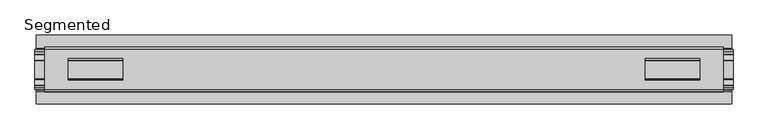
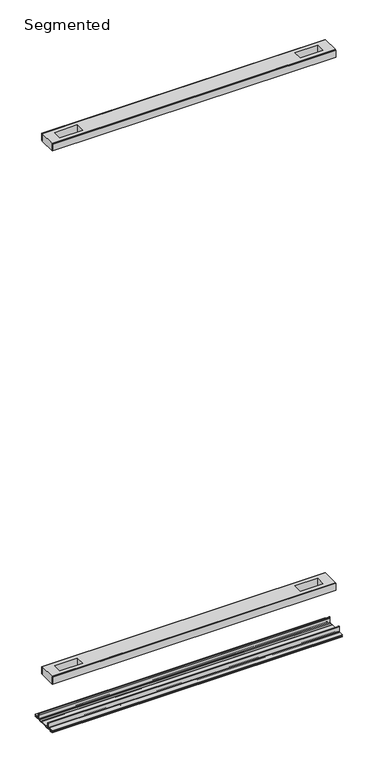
"""IFC4 building model written with IfcOpenShell, lengths in millimetres: proxy geometry, Frame-Teknion-FHCRA-Horizontal_Rail-R2022 : Segmented."""

from ifc_helpers import new_model, si_unit, point, frame, frame_2d, origin, place, context, project, spatial, polyline, circle_curve, trimmed, segment, composite_curve, outline, extrude, source, transform, mapped, element, save


def segmented_6adcb2d5(model_context):
    return source(origin(), model_context, "Body", "SweptSolid", [
        extrude(outline(polyline([(492.0615091, 29.0068005), (-492.0615091, 29.0068005), (-492.0615091, 32.1817997), (492.0615091, 32.1817997), (492.0615091, 29.0068005)])), frame((0.0, 0.0, 2107.0117561), z_axis=(0.0, 0.0, 1.0), x_axis=(1.0, 0.0, 0.0)), (0.0, 0.0, 1.0), 25.3999939),
        extrude(outline(polyline([(492.0615091, -32.1817997), (-492.0615091, -32.1817997), (-492.0615091, -29.0068005), (492.0615091, -29.0068005), (492.0615091, -32.1817997)])), frame((0.0, 0.0, 2107.0117561), z_axis=(0.0, 0.0, 1.0), x_axis=(1.0, 0.0, 0.0)), (0.0, 0.0, 1.0), 25.3999939),
        extrude(outline(polyline([(492.0615091, -29.0068005), (-492.0615091, -29.0068005), (-492.0615091, 29.0068005), (492.0615091, 29.0068005), (492.0615091, -29.0068005)]), holes=[polyline([(457.6444965, -15.1130038), (457.6444965, 15.875003), (378.5996847, 15.875003), (378.5996847, -15.1130038), (457.6444965, -15.1130038)]), polyline([(-457.6444965, -15.1130038), (-378.5996847, -15.1130038), (-378.5996847, 15.875003), (-457.6444965, 15.875003), (-457.6444965, -15.1130038)])]), frame((0.0, 0.0, 2105.5901786), z_axis=(0.0, 0.0, 1.0), x_axis=(1.0, 0.0, 0.0)), (0.0, 0.0, 1.0), 27.9999988),
        extrude(outline(polyline([(492.0615091, 29.0068005), (-492.0615091, 29.0068005), (-492.0615091, 32.1817997), (492.0615091, 32.1817997), (492.0615091, 29.0068005)])), frame((0.0, 0.0, 149.8401622), z_axis=(0.0, 0.0, 1.0), x_axis=(1.0, 0.0, 0.0)), (0.0, 0.0, 1.0), 25.3999939),
        extrude(outline(polyline([(492.0615091, -32.1817997), (-492.0615091, -32.1817997), (-492.0615091, -29.0068005), (492.0615091, -29.0068005), (492.0615091, -32.1817997)])), frame((0.0, 0.0, 149.8401622), z_axis=(0.0, 0.0, 1.0), x_axis=(1.0, 0.0, 0.0)), (0.0, 0.0, 1.0), 25.3999939),
        extrude(outline(polyline([(492.0615091, -29.0068005), (-492.0615091, -29.0068005), (-492.0615091, 29.0068005), (492.0615091, 29.0068005), (492.0615091, -29.0068005)]), holes=[polyline([(457.6444965, -15.1130038), (457.6444965, 15.875003), (378.5996847, 15.875003), (378.5996847, -15.1130038), (457.6444965, -15.1130038)]), polyline([(-457.6444965, -15.1130038), (-378.5996847, -15.1130038), (-378.5996847, 15.875003), (-457.6444965, 15.875003), (-457.6444965, -15.1130038)])]), frame((0.0, 0.0, 148.4185847), z_axis=(0.0, 0.0, 1.0), x_axis=(1.0, 0.0, 0.0)), (0.0, 0.0, 1.0), 27.9999988),
        extrude(outline(composite_curve([segment(trimmed(circle_curve(frame_2d((26.6420561, -7.7516037)), 2.17424), [point((28.8162961, -7.7516037))], [point((26.6420561, -9.9258438))], False, "CARTESIAN"), True, "CONTINUOUS"), segment(polyline([(26.6420561, -9.9258438), (22.3510694, -9.9258438)]), True, "CONTINUOUS"), segment(trimmed(circle_curve(frame_2d((17.7706549, -6.4800016)), 5.7318431), [point((22.3510694, -9.9258438))], [point((13.1902404, -9.9258438))], False, "CARTESIAN"), True, "CONTINUOUS"), segment(polyline([(13.1902404, -9.9258438), (-13.57124, -9.9258438)]), True, "CONTINUOUS"), segment(trimmed(circle_curve(frame_2d((-18.1516545, -6.4800016)), 5.7318431), [point((-13.57124, -9.9258438))], [point((-22.732069, -9.9258438))], False, "CARTESIAN"), True, "CONTINUOUS"), segment(polyline([(-22.732069, -9.9258438), (-27.0230557, -9.9258438)]), True, "CONTINUOUS"), segment(trimmed(circle_curve(frame_2d((-27.0230557, -7.7516037)), 2.17424), [point((-27.0230557, -9.9258438))], [point((-29.1972958, -7.7516037))], False, "CARTESIAN"), True, "CONTINUOUS"), segment(polyline([(-29.1972958, -7.7516037), (-29.1972958, 9.8607558)]), True, "CONTINUOUS"), segment(trimmed(circle_curve(frame_2d((-27.9780978, 9.8607558)), 1.2191979), [point((-29.1972958, 9.8607558))], [point((-26.7588999, 9.8607558))], False, "CARTESIAN"), True, "CONTINUOUS"), segment(polyline([(-26.7588999, 9.8607558), (-26.7588999, 5.9999563), (-28.0390765, 5.9999563), (-28.0390765, -7.7516037)]), True, "CONTINUOUS"), segment(trimmed(circle_curve(frame_2d((-27.0230557, -7.7516037)), 1.0160208), [point((-28.0390765, -7.7516037))], [point((-27.0295728, -8.7676036))], True, "CARTESIAN"), True, "CONTINUOUS"), segment(polyline([(-27.0295728, -8.7676036), (-23.0866222, -8.7676036), (-22.1732605, -8.968753)]), True, "CONTINUOUS"), segment(trimmed(circle_curve(frame_2d((-18.1483018, -6.1259382)), 4.9276657), [point((-22.1732605, -8.968753))], [point((-14.123343, -8.968753))], True, "CARTESIAN"), True, "CONTINUOUS"), segment(polyline([(-14.123343, -8.968753), (-13.2099722, -8.7676036), (12.8289726, -8.7676036), (13.7423434, -8.968753)]), True, "CONTINUOUS"), segment(trimmed(circle_curve(frame_2d((17.7673021, -6.1259382)), 4.9276657), [point((13.7423434, -8.968753))], [point((21.7922609, -8.968753))], True, "CARTESIAN"), True, "CONTINUOUS"), segment(polyline([(21.7922609, -8.968753), (22.7056226, -8.7676036), (26.6485732, -8.7676036)]), True, "CONTINUOUS"), segment(trimmed(circle_curve(frame_2d((26.6420561, -7.7516037)), 1.0160208), [point((26.6485732, -8.7676036))], [point((27.6580769, -7.7516037))], True, "CARTESIAN"), True, "CONTINUOUS"), segment(polyline([(27.6580769, -7.7516037), (27.6580769, 5.9999563), (26.3779003, 5.9999563), (26.3779003, 9.8607558)]), True, "CONTINUOUS"), segment(trimmed(circle_curve(frame_2d((27.5970982, 9.8607558)), 1.2191979), [point((26.3779003, 9.8607558))], [point((28.8162961, 9.8607558))], False, "CARTESIAN"), True, "CONTINUOUS"), segment(polyline([(28.8162961, 9.8607558), (28.8162961, -7.7516037)]), True, "CONTINUOUS")], self_intersect=False)), frame((-506.1204, 0.0, 0.0), z_axis=(1.0, 0.0, 0.0), x_axis=(0.0, 1.0, 0.0)), (0.0, 0.0, 1.0), 1012.2408),
        extrude(outline(composite_curve([segment(polyline([(50.2668422, -13.9898438), (39.6557522, -13.9898438)]), True, "CONTINUOUS"), segment(trimmed(circle_curve(frame_2d((39.6557522, -12.4658438)), 1.524), [point((39.6557522, -13.9898438))], [point((38.1317522, -12.4658438))], False, "CARTESIAN"), True, "CONTINUOUS"), segment(polyline([(38.1317522, -12.4658438), (38.1317522, -7.766844), (31.3054974, -7.766844), (31.3054974, -10.0528438)]), True, "CONTINUOUS"), segment(trimmed(circle_curve(frame_2d((29.7814974, -10.0528438)), 1.524), [point((31.3054974, -10.0528438))], [point((29.7814974, -11.5768438))], False, "CARTESIAN"), True, "CONTINUOUS"), segment(polyline([(29.7814974, -11.5768438), (23.2753553, -11.5768438)]), True, "CONTINUOUS"), segment(trimmed(circle_curve(frame_2d((17.7673021, -6.4968436)), 7.4930002), [point((23.2753553, -11.5768438))], [point((12.5094972, -11.8354331))], False, "CARTESIAN"), True, "CONTINUOUS"), segment(polyline([(12.5094972, -11.8354331), (-12.8904968, -11.8354331)]), True, "CONTINUOUS"), segment(trimmed(circle_curve(frame_2d((-18.1483018, -6.4968436)), 7.4930002), [point((-12.8904968, -11.8354331))], [point((-23.6563549, -11.5768438))], False, "CARTESIAN"), True, "CONTINUOUS"), segment(polyline([(-23.6563549, -11.5768438), (-30.1624971, -11.5768438)]), True, "CONTINUOUS"), segment(trimmed(circle_curve(frame_2d((-30.1624971, -10.0528438)), 1.524), [point((-30.1624971, -11.5768438))], [point((-31.686497, -10.0528438))], False, "CARTESIAN"), True, "CONTINUOUS"), segment(polyline([(-31.686497, -10.0528438), (-31.686497, -7.766844), (-38.5127519, -7.766844), (-38.5127519, -12.4658438)]), True, "CONTINUOUS"), segment(trimmed(circle_curve(frame_2d((-40.0367518, -12.4658438)), 1.524), [point((-38.5127519, -12.4658438))], [point((-40.0367518, -13.9898438))], False, "CARTESIAN"), True, "CONTINUOUS"), segment(polyline([(-40.0367518, -13.9898438), (-50.00625, -13.9898438), (-50.00625, -12.3388438), (-40.1637503, -12.3388438), (-40.1637503, -7.766844), (-50.00625, -7.766844), (-50.00625, -6.1158439), (-31.6239218, -6.1158439)]), True, "CONTINUOUS"), segment(trimmed(circle_curve(frame_2d((-31.6864982, -7.7656583)), 1.6510007), [point((-31.6239218, -6.1158439))], [point((-30.0354975, -7.7656583))], False, "CARTESIAN"), True, "CONTINUOUS"), segment(polyline([(-30.0354975, -7.7656583), (-30.0354975, -9.9258438), (-23.486834, -9.9258438)]), True, "CONTINUOUS"), segment(trimmed(circle_curve(frame_2d((-18.1483018, -5.2268471)), 7.1119966), [point((-23.486834, -9.9258438))], [point((-12.8097695, -9.9258438))], True, "CARTESIAN"), True, "CONTINUOUS"), segment(polyline([(-12.8097695, -9.9258438), (12.4287699, -9.9258438)]), True, "CONTINUOUS"), segment(trimmed(circle_curve(frame_2d((17.7673021, -5.2268471)), 7.1119966), [point((12.4287699, -9.9258438))], [point((23.1058344, -9.9258438))], True, "CARTESIAN"), True, "CONTINUOUS"), segment(polyline([(23.1058344, -9.9258438), (29.6544978, -9.9258438), (29.6544978, -7.6398436)]), True, "CONTINUOUS"), segment(trimmed(circle_curve(frame_2d((31.1784975, -7.6398436)), 1.5239997), [point((29.6544978, -7.6398436))], [point((31.1784975, -6.1158439))], False, "CARTESIAN"), True, "CONTINUOUS"), segment(polyline([(31.1784975, -6.1158439), (50.2668422, -6.1158439), (50.2240211, -7.766844), (39.7827507, -7.766844), (39.7827507, -12.3388438), (50.2240211, -12.3388438), (50.2668422, -13.9898438)]), True, "CONTINUOUS")], self_intersect=False)), frame((-504.4694, 0.0, 0.0), z_axis=(1.0, 0.0, 0.0), x_axis=(0.0, 1.0, 0.0)), (0.0, 0.0, 1.0), 1008.9388),
    ])


if __name__ == "__main__":
    model = new_model("IFC4")
    model_context = context("Model", 3, world=origin())
    ifc_project = project(units=[si_unit("LENGTHUNIT", "METRE", prefix="MILLI")], contexts=[model_context])
    site = spatial("IfcSite", under=ifc_project)
    building = spatial("IfcBuilding", under=site)
    placement = place(None, origin())
    segmented_shape = segmented_6adcb2d5(model_context)
    element("IfcBuildingElementProxy", 1, Name="Frame-Teknion-FHCRA-Horizontal_Rail-R2022 : Segmented", ObjectType="Frame-Teknion-FHCRA-Horizontal_Rail-R2022 : Segmented", at=placement, inside=building, context=model_context, shape_type="MappedRepresentation", body=[
        mapped(segmented_shape, transform((0.0, 0.0, 0.0), x_axis=(1.0, 0.0, 0.0), y_axis=(0.0, 1.0, 0.0), z_axis=(0.0, 0.0, 1.0))),
    ])
    save(model, "model.ifc")
